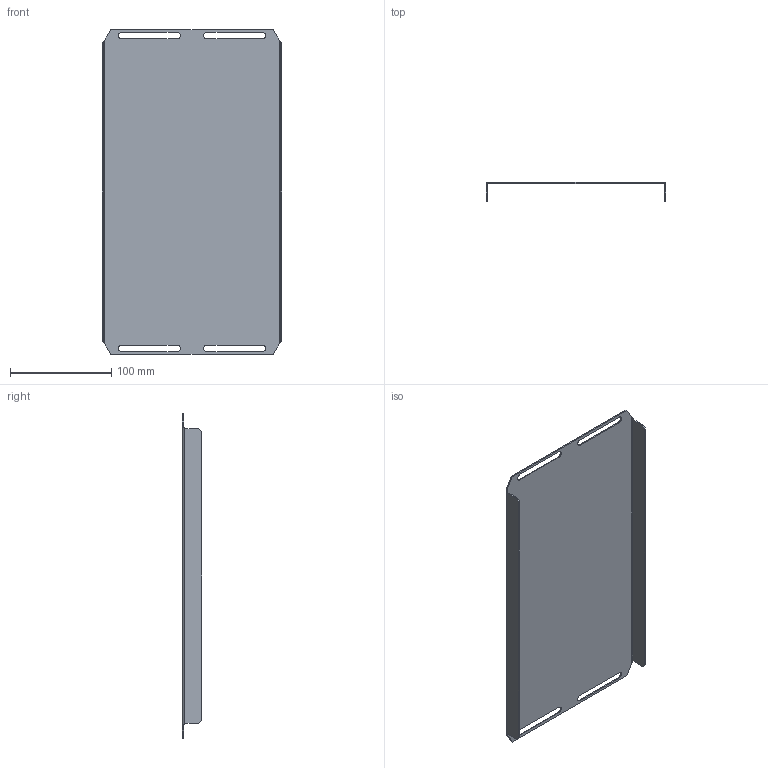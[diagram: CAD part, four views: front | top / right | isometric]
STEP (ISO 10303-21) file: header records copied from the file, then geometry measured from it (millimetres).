
FILE_DESCRIPTION (( 'STEP AP203' ), '1' );
FILE_NAME ('PKV 50 SH Ïàíåëü ñòàöèîíàðíàÿ.STEP', '2021-05-17T06:30:47', ( '' ), ( '' ), 'SwSTEP 2.0', 'SolidWorks 2018', '' );
FILE_SCHEMA (( 'CONFIG_CONTROL_DESIGN' ));
Length unit declared in the file: millimetre
Products named in the file (1): PKV 50 SH Ïàíåëü ñòàöèîíàðíàÿ
Bounding box: 177 x 19 x 320.5 mm (x, y, z)
Volume: 77785 mm3; surface area: 131499.3 mm2
Topology: 1 solids, 1 shells, 46 faces, 116 edges, 72 vertices
Faces by surface type: plane 30, cylinder 12, bspline 4
Entity records: 1561 total; most frequent: CARTESIAN_POINT 399, ORIENTED_EDGE 232, DIRECTION 202, EDGE_CURVE 116, LINE 84, VECTOR 84, VERTEX_POINT 72, AXIS2_PLACEMENT_3D 59
